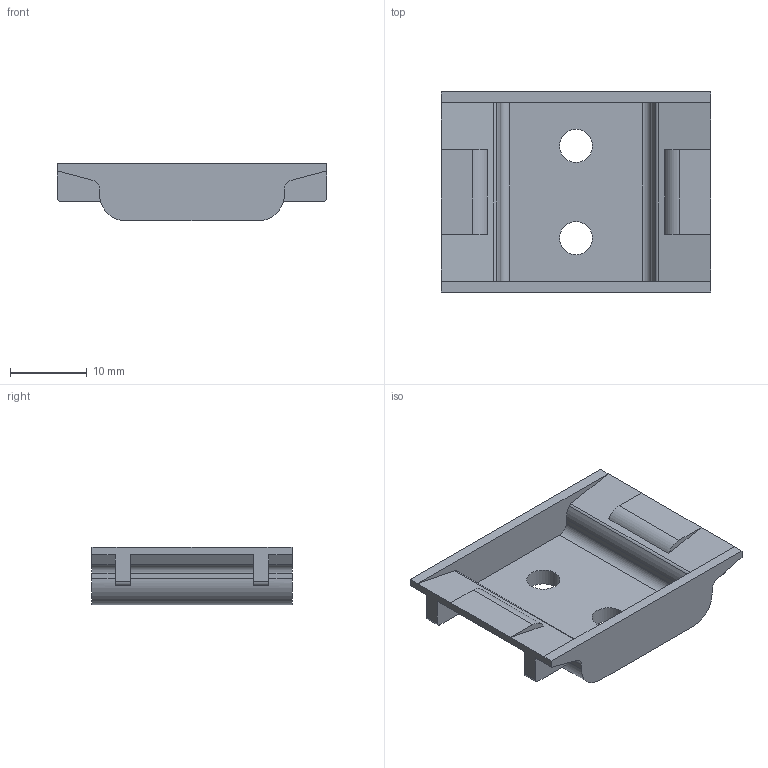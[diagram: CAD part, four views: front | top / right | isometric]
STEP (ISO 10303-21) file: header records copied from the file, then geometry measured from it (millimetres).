
FILE_DESCRIPTION( ( 'Unknown' ), '1' );
FILE_NAME( 'J:/DESBAKUP/3D DATA/MK-015PSL/ASSEMBLIES/3D OUTPUT & IMAGES/MK-015PSL.stp', 'Unknown', ( 'Unknown' ), ( 'Unknown' ), 'PSStep 14.0', 'Unknown', ' ' );
FILE_SCHEMA( ( 'AUTOMOTIVE_DESIGN { 1 0 10303 214 1 1 1 1 }' ) );
Length unit declared in the file: millimetre
Products named in the file (1): 1
Bounding box: 35 x 26 x 7.5 mm (x, y, z)
Volume: 2512.9 mm3; surface area: 2986.9 mm2
Topology: 1 solids, 1 shells, 66 faces, 184 edges, 120 vertices
Faces by surface type: plane 44, cylinder 22
Full cylindrical faces by diameter (mm): 4.3 x2
Entity records: 2658 total; most frequent: CARTESIAN_POINT 369, DIRECTION 368, ORIENTED_EDGE 364, EDGE_CURVE 182, LINE 130, VECTOR 130, VERTEX_POINT 120, AXIS2_PLACEMENT_3D 119
